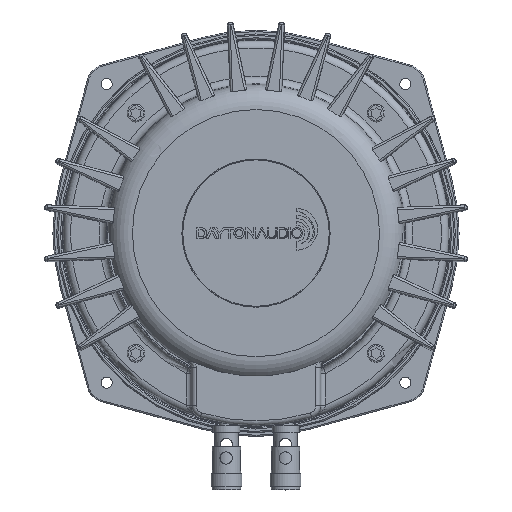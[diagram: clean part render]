
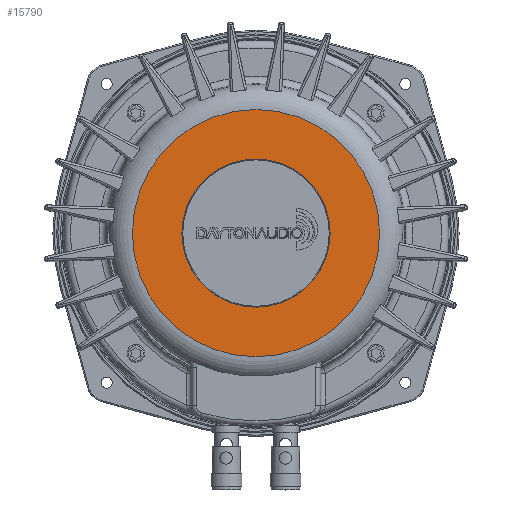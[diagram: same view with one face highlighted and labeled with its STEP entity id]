
A CAD part, top view. The second image highlights one B-rep face of the part: STEP entity #15790.
In plain terms, the highlighted planar face has unit normal (0, 0, 1) as drawn and (0, 1, 0) by its records, which use the part's own axes.
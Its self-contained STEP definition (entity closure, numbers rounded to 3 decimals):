
#98=FACE_BOUND('',#5124,.T.);
#4140=FACE_OUTER_BOUND('',#5123,.T.);
#5123=EDGE_LOOP('',(#14013));
#5124=EDGE_LOOP('',(#14014));
#5759=CIRCLE('',#17002,50.213);
#5842=CIRCLE('',#17192,30.1);
#7259=VERTEX_POINT('',#79768);
#7392=VERTEX_POINT('',#81432);
#9397=EDGE_CURVE('',#7259,#7259,#5759,.T.);
#9660=EDGE_CURVE('',#7392,#7392,#5842,.T.);
#14013=ORIENTED_EDGE('',*,*,#9397,.F.);
#14014=ORIENTED_EDGE('',*,*,#9660,.T.);
#14962=PLANE('',#17191);
#15790=ADVANCED_FACE('',(#4140,#98),#14962,.T.);
#17002=AXIS2_PLACEMENT_3D('',#79769,#20377,#20378);
#17191=AXIS2_PLACEMENT_3D('',#81431,#20824,#20825);
#17192=AXIS2_PLACEMENT_3D('',#81433,#20826,#20827);
#20377=DIRECTION('center_axis',(0.,-1.,0.));
#20378=DIRECTION('ref_axis',(1.,0.,0.));
#20824=DIRECTION('center_axis',(0.,1.,0.));
#20825=DIRECTION('ref_axis',(-1.,0.,0.));
#20826=DIRECTION('center_axis',(0.,-1.,0.));
#20827=DIRECTION('ref_axis',(1.,0.,0.));
#79768=CARTESIAN_POINT('',(93.497,0.,-36.945));
#79769=CARTESIAN_POINT('Origin',(43.284,0.,-36.945));
#81431=CARTESIAN_POINT('Origin',(43.284,0.,-36.945));
#81432=CARTESIAN_POINT('',(43.284,0.,-67.045));
#81433=CARTESIAN_POINT('Origin',(43.284,0.,-36.945));
